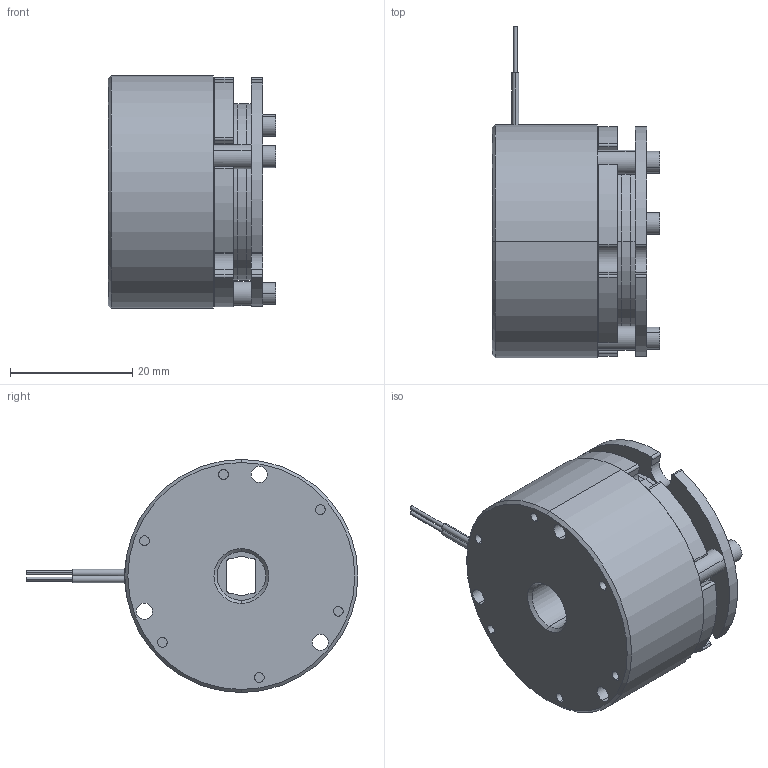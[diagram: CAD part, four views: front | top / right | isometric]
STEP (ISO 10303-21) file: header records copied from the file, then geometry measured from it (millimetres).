
FILE_DESCRIPTION (( 'STEP AP214' ), '1' );
FILE_NAME ('AD1.50HP.STEP', '2025-11-11T15:56:24', ( '' ), ( '' ), 'SwSTEP 2.0', 'SolidWorks 2024', '' );
FILE_SCHEMA (( 'AUTOMOTIVE_DESIGN' ));
Length unit declared in the file: inch
Products named in the file (1): AD1.50HP
Bounding box: 27.43 x 54.19 x 38.07 mm (x, y, z)
Volume: 24407 mm3; surface area: 13586.2 mm2
Topology: 8 solids, 8 shells, 307 faces, 754 edges, 498 vertices
Faces by surface type: cylinder 174, plane 103, bspline 18, cone 10, torus 2
Entity records: 52442 total; most frequent: CARTESIAN_POINT 44959, DIRECTION 1568, ORIENTED_EDGE 1508, EDGE_CURVE 754, AXIS2_PLACEMENT_3D 631, VERTEX_POINT 498, EDGE_LOOP 366, CIRCLE 341
